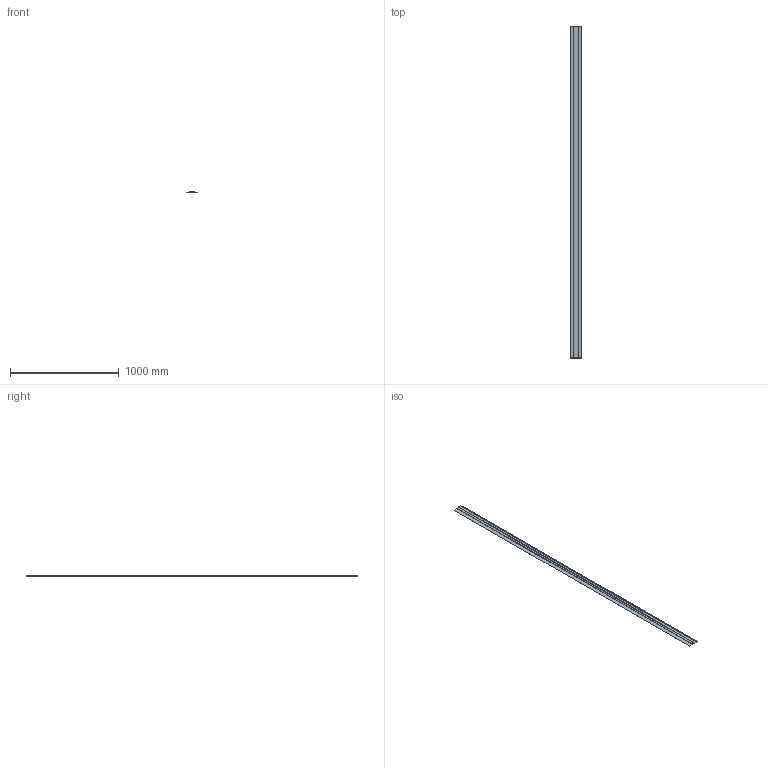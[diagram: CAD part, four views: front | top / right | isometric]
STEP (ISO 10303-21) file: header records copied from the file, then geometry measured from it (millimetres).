
FILE_DESCRIPTION(/* description */ (''),/* implementation_level */ '2;1');
FILE_NAME(/* name */ 'M11C.stp',/* time_stamp */ '2025-05-06T12:04:53-04:00',/* author */ ('samuel.gauthier'),/* organization */ (''),/* preprocessor_version */ 'ST-DEVELOPER v20',/* originating_system */ 'Autodesk Inventor 2025',/* authorisation */ '');
FILE_SCHEMA (('AUTOMOTIVE_DESIGN { 1 0 10303 214 3 1 1 }'));
Length unit declared in the file: inch
Products named in the file (1): M11G
Bounding box: 101.6 x 3048 x 15.75 mm (x, y, z)
Volume: 414913.5 mm3; surface area: 1643080.3 mm2
Topology: 3 solids, 3 shells, 42 faces, 108 edges, 72 vertices
Faces by surface type: plane 30, cylinder 12
Entity records: 1319 total; most frequent: CARTESIAN_POINT 223, DIRECTION 218, ORIENTED_EDGE 216, EDGE_CURVE 108, LINE 84, VECTOR 84, VERTEX_POINT 72, AXIS2_PLACEMENT_3D 67
